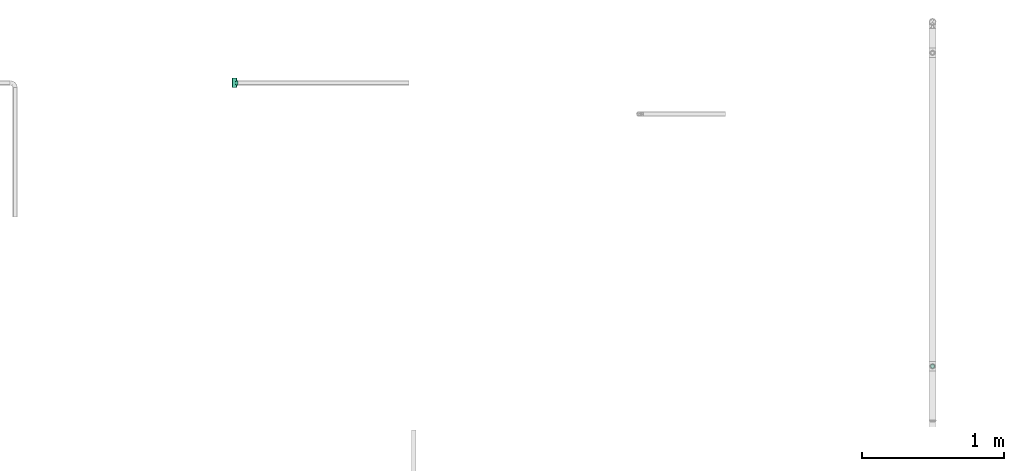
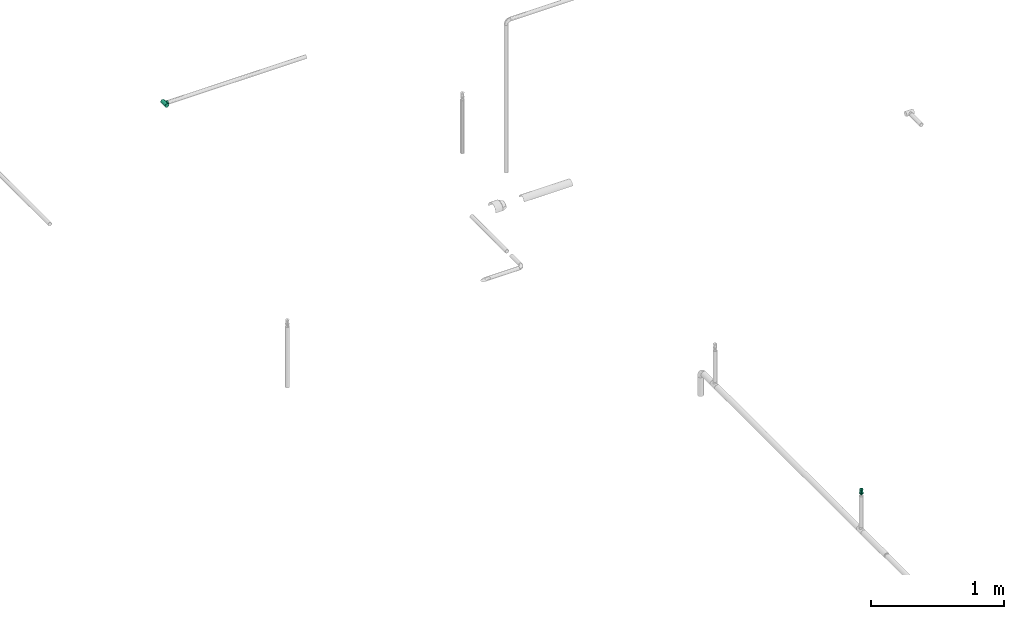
# One storey, part 41 of 63: 1 flow fitting, 1 flow terminal.
"""IFC2X3 building model written with IfcOpenShell, lengths in millimetres."""

from ifc_helpers import new_model, entity, si_unit, converted_unit, derived_unit, direction, frame, origin_with_axes, place, context, subcontext, project, spatial, open_shell, surface_model, source, transform, mapped, type_object, element, save


model = new_model("IFC2X3")

# Units and contexts
model_context = context("Model", 3, precision=0.01, world=frame((0.0, 4.29681676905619e-09, 0.0)), true_north=direction((4.01073788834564e-13, 1.0)))
plan_context = context("Plan", 3, precision=0.01, world=frame((0.0, 4.29681676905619e-09, 0.0)), true_north=direction((4.01073788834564e-13, 1.0)))
body_context = subcontext(model_context, "Body", "Model", "MODEL_VIEW")
ifc_project = project(units=[converted_unit("PLANEANGLEUNIT", "DEGREE", entity("IfcPositiveLengthMeasure", 0.0174532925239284), si_unit("PLANEANGLEUNIT", "RADIAN"), dimensions=[0, 0, 0, 0, 0, 0, 0]), si_unit("AREAUNIT", "SQUARE_METRE"), si_unit("LENGTHUNIT", "METRE", prefix="MILLI"), si_unit("MASSUNIT", "GRAM", prefix="KILO"), si_unit("POWERUNIT", "WATT"), si_unit("PRESSUREUNIT", "PASCAL", prefix="KILO"), si_unit("FORCEUNIT", "NEWTON", prefix="KILO"), si_unit("ELECTRICVOLTAGEUNIT", "VOLT"), si_unit("ELECTRICCURRENTUNIT", "AMPERE"), si_unit("THERMODYNAMICTEMPERATUREUNIT", "DEGREE_CELSIUS"), si_unit("TIMEUNIT", "SECOND"), si_unit("VOLUMEUNIT", "CUBIC_METRE"), derived_unit("LINEARVELOCITYUNIT", [(si_unit("LENGTHUNIT", "METRE"), 1), (si_unit("TIMEUNIT", "SECOND"), -1)]), derived_unit("VOLUMETRICFLOWRATEUNIT", [(si_unit("VOLUMEUNIT", "CUBIC_METRE"), 1), (si_unit("TIMEUNIT", "SECOND"), -1)]), derived_unit("THERMALTRANSMITTANCEUNIT", [(si_unit("POWERUNIT", "WATT"), 1), (si_unit("THERMODYNAMICTEMPERATUREUNIT", "KELVIN"), -1), (si_unit("AREAUNIT", "SQUARE_METRE"), -1)]), derived_unit("SOUNDPRESSUREUNIT", [(si_unit("PRESSUREUNIT", "PASCAL"), 1)])], contexts=[model_context, plan_context])

# Site, building, storey
site_placement = place(None, frame((0.0, -4.29681676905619e-09, 0.0), z_axis=(0.0, 0.0, 1.0), x_axis=(1.0, 0.0, 0.0)))
site = spatial("IfcSite", under=ifc_project, at=site_placement, CompositionType="ELEMENT")
building_placement = place(site_placement, frame((0.0, 4.29681676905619e-09, 0.0), z_axis=(0.0, 0.0, 1.0), x_axis=(1.0, 0.0, 0.0)))
building = spatial("IfcBuilding", under=site, at=building_placement, Name="mc-building", CompositionType="ELEMENT")
storey_placement = place(building_placement, frame((0.0, 0.0, 207370.0), z_axis=(0.0, 0.0, 1.0), x_axis=(1.0, 0.0, 0.0)))
storey = spatial("IfcBuildingStorey", under=building, at=storey_placement, Name="Nivå E", CompositionType="ELEMENT", Elevation=207370.0)

# Flow fitting
pipe_fitting_type = type_object("IfcPipeFittingType", Name="magi_pipe_fe_tee_centric_90_NOR", PredefinedType="JUNCTION")
shared_shape_1 = source(origin_with_axes(), body_context, "Body", "SurfaceModel", [
    surface_model("IfcShellBasedSurfaceModel", [(-33.8, 4.37404, -16.32415), (-33.8, 0.0, -16.9), (-33.8, 16.32415, -4.37404), (-33.8, 8.45, -14.63583), (-33.8, 11.9501, -11.9501), (-33.8, 14.63583, -8.45), (-33.8, -16.9, 0.0), (-33.8, -11.9501, -11.9501), (-33.8, -14.63583, -8.45), (-33.8, -8.45, -14.63583), (-33.8, -4.37404, -16.32415), (-33.8, -16.32415, -4.37404), (-33.8, 14.63583, 8.45), (-33.8, 16.32415, 4.37404), (-33.8, -8.45, 14.63583), (-33.8, 8.45, 14.63583), (-33.8, 11.9501, 11.9501), (-33.8, 4.37404, 16.32415), (-33.8, 0.0, 16.9), (-33.8, -11.9501, 11.9501), (-33.8, -14.63583, 8.45), (-33.8, -16.32415, 4.37404), (-33.8, -4.37404, 16.32415), (-33.8, 16.9, 0.0), (33.8, 4.37404, -16.32415), (33.8, -16.9, 0.0), (33.8, 0.0, -16.9), (33.8, 14.63583, -8.45), (33.8, 8.45, -14.63583), (33.8, 16.32415, -4.37404), (33.8, 11.9501, -11.9501), (33.8, -16.32415, 4.37404), (33.8, -8.45, -14.63583), (33.8, -4.37404, -16.32415), (33.8, -11.9501, -11.9501), (33.8, -14.63583, -8.45), (33.8, -16.32415, -4.37404), (33.8, 16.32415, 4.37404), (33.8, 8.45, 14.63583), (33.8, 14.63583, 8.45), (33.8, 11.9501, 11.9501), (33.8, -8.45, 14.63583), (33.8, 4.37404, 16.32415), (33.8, -14.63583, 8.45), (33.8, -11.9501, 11.9501), (33.8, 0.0, 16.9), (33.8, -4.37404, 16.32415), (33.8, 16.9, 0.0), (16.28698, -16.28698, 4.51047), (16.9, -16.9, 0.0), (14.62704, -14.62704, 8.4652), (9.47213, -9.47213, 13.99602), (12.26343, -12.26343, 11.62834), (-16.9, -16.9, 0.0), (-16.28698, -16.28698, 4.51047), (-14.62704, -14.62704, 8.4652), (-12.26343, -12.26343, 11.62834), (-9.47213, -9.47213, 13.99602), (-6.42894, -6.42894, 15.62942), (6.42894, -6.42894, 15.62942), (3.24522, -3.24522, 16.58549), (0.0, 0.0, 16.9), (-3.24522, -3.24522, 16.58549), (3.24522, -3.24522, -16.58549), (0.0, 0.0, -16.9), (-3.24522, -3.24522, -16.58549), (-6.42894, -6.42894, -15.62942), (6.42894, -6.42894, -15.62942), (9.47213, -9.47213, -13.99602), (12.26343, -12.26343, -11.62834), (14.62704, -14.62704, -8.4652), (16.28698, -16.28698, -4.51047), (-9.47213, -9.47213, -13.99602), (-12.26343, -12.26343, -11.62834), (-16.28698, -16.28698, -4.51047), (-14.62704, -14.62704, -8.4652), (4.37404, -25.35, -16.32415), (-16.9, -25.35, 0.0), (0.0, -25.35, -16.9), (14.63583, -25.35, -8.45), (8.45, -25.35, -14.63583), (16.32415, -25.35, -4.37404), (11.9501, -25.35, -11.9501), (-11.9501, -25.35, -11.9501), (-8.45, -25.35, -14.63583), (-4.37404, -25.35, -16.32415), (-14.63583, -25.35, -8.45), (-16.32415, -25.35, -4.37404), (16.9, -25.35, 0.0), (8.45, -25.35, 14.63583), (16.32415, -25.35, 4.37404), (14.63583, -25.35, 8.45), (-8.45, -25.35, 14.63583), (11.9501, -25.35, 11.9501), (4.37404, -25.35, 16.32415), (-16.32415, -25.35, 4.37404), (-11.9501, -25.35, 11.9501), (-14.63583, -25.35, 8.45), (0.0, -25.35, 16.9), (-4.37404, -25.35, 16.32415)], [open_shell([[[0, 1, 2]], [[3, 0, 4]], [[0, 2, 5]], [[4, 0, 5]], [[6, 2, 1]], [[7, 8, 9]], [[1, 10, 9]], [[11, 6, 8]], [[1, 9, 8]], [[1, 8, 6]], [[6, 12, 2]], [[12, 13, 2]], [[14, 12, 6]], [[12, 14, 15]], [[16, 12, 15]], [[17, 15, 18]], [[19, 14, 20]], [[21, 20, 14]], [[22, 18, 14]], [[14, 6, 21]], [[14, 18, 15]], [[23, 2, 13]], [[24, 25, 26]], [[27, 24, 28]], [[27, 29, 24]], [[27, 28, 30]], [[31, 25, 24]], [[26, 32, 33]], [[26, 34, 32]], [[35, 25, 36]], [[35, 34, 26]], [[25, 35, 26]], [[24, 29, 31]], [[29, 37, 38]], [[38, 37, 39]], [[38, 31, 29]], [[38, 39, 40]], [[41, 38, 42]], [[43, 41, 44]], [[41, 43, 31]], [[41, 45, 46]], [[41, 31, 38]], [[42, 45, 41]], [[29, 47, 37]], [[31, 43, 48]], [[25, 31, 49]], [[49, 31, 48]], [[43, 50, 48]], [[44, 41, 51]], [[50, 43, 52]], [[51, 52, 44]], [[52, 43, 44]], [[53, 54, 21]], [[53, 21, 6]], [[21, 54, 20]], [[54, 55, 20]], [[56, 57, 19]], [[19, 20, 56]], [[19, 57, 14]], [[56, 20, 55]], [[14, 57, 58]], [[51, 41, 59]], [[60, 45, 61]], [[59, 46, 60]], [[46, 59, 41]], [[60, 46, 45]], [[61, 45, 42]], [[39, 37, 13]], [[16, 38, 40]], [[12, 40, 39]], [[42, 38, 15]], [[23, 37, 47]], [[62, 61, 18]], [[62, 22, 58]], [[22, 62, 18]], [[58, 22, 14]], [[61, 17, 18]], [[42, 17, 61]], [[15, 17, 42]], [[15, 38, 16]], [[12, 16, 40]], [[13, 12, 39]], [[37, 23, 13]], [[5, 27, 30]], [[23, 47, 29]], [[30, 28, 3]], [[27, 2, 29]], [[26, 33, 63]], [[26, 64, 24]], [[64, 26, 63]], [[28, 24, 0]], [[64, 0, 24]], [[4, 30, 3]], [[2, 27, 5]], [[5, 30, 4]], [[2, 23, 29]], [[65, 66, 10]], [[1, 0, 64]], [[1, 65, 10]], [[66, 9, 10]], [[0, 3, 28]], [[1, 64, 65]], [[63, 33, 67]], [[32, 34, 68]], [[69, 68, 34]], [[35, 70, 69]], [[69, 34, 35]], [[32, 68, 67]], [[36, 25, 49]], [[36, 71, 35]], [[71, 36, 49]], [[35, 71, 70]], [[72, 9, 66]], [[72, 7, 9]], [[7, 72, 73]], [[7, 73, 8]], [[74, 53, 11]], [[75, 74, 8]], [[74, 11, 8]], [[11, 53, 6]], [[75, 8, 73]], [[32, 67, 33]], [[76, 77, 78]], [[79, 76, 80]], [[79, 81, 76]], [[79, 80, 82]], [[77, 76, 81]], [[78, 83, 84]], [[84, 85, 78]], [[86, 77, 87]], [[83, 78, 86]], [[77, 86, 78]], [[81, 88, 77]], [[89, 88, 90]], [[89, 90, 91]], [[92, 77, 89]], [[89, 91, 93]], [[92, 89, 94]], [[95, 96, 97]], [[96, 95, 92]], [[92, 98, 99]], [[95, 77, 92]], [[94, 98, 92]], [[89, 77, 88]], [[77, 95, 53]], [[54, 53, 95]], [[97, 96, 56]], [[96, 92, 57]], [[95, 97, 54]], [[58, 92, 99]], [[55, 54, 97]], [[56, 55, 97]], [[58, 57, 92]], [[98, 61, 62]], [[58, 99, 62]], [[56, 96, 57]], [[62, 99, 98]], [[94, 60, 98]], [[89, 59, 94]], [[91, 90, 48]], [[52, 93, 91]], [[93, 51, 89]], [[49, 90, 88]], [[59, 60, 94]], [[51, 59, 89]], [[49, 48, 90]], [[50, 52, 91]], [[48, 50, 91]], [[51, 93, 52]], [[98, 60, 61]], [[88, 81, 49]], [[71, 49, 81]], [[79, 82, 69]], [[82, 80, 68]], [[81, 79, 71]], [[67, 80, 76]], [[70, 71, 79]], [[69, 70, 79]], [[67, 68, 80]], [[78, 64, 63]], [[67, 76, 63]], [[69, 82, 68]], [[63, 76, 78]], [[85, 65, 78]], [[84, 66, 85]], [[86, 87, 74]], [[86, 73, 83]], [[72, 84, 83]], [[53, 87, 77]], [[66, 65, 85]], [[72, 66, 84]], [[53, 74, 87]], [[75, 73, 86]], [[74, 75, 86]], [[72, 83, 73]], [[78, 65, 64]]])]),
])
flow_fitting_placement = place(storey_placement, frame((723741.0277, 439200.7, 7130.0), z_axis=(0.0, 0.0, -1.0), x_axis=(0.0, -1.0, 0.0)))
element("IfcFlowFitting", 1, at=flow_fitting_placement, inside=storey, type_object=pipe_fitting_type, Name="magi_pipe_fe_tee_centric_90_NOR", context=body_context, shape_type="MappedRepresentation", body=[
    mapped(shared_shape_1, transform((0.0, 0.0, 0.0), scale=1.0)),
])

# Flow terminal
fire_suppression_terminal_type = type_object("IfcFireSuppressionTerminalType", Name="68DGR-STD-STÅENDE", PredefinedType="NOTDEFINED")
shared_shape_2 = source(origin_with_axes(), body_context, "Body", "SurfaceModel", [
    surface_model("IfcShellBasedSurfaceModel", [(3.36465, -12.55704, 51.0), (6.5, -11.25833, 51.0), (9.19239, -9.19239, 51.0), (12.55704, -3.36465, 51.0), (-11.25833, -6.5, 51.0), (11.25833, -6.5, 51.0), (-13.0, 0.0, 51.0), (0.0, -13.0, 51.0), (-6.5, -11.25833, 51.0), (-3.36465, -12.55704, 51.0), (-9.19239, -9.19239, 51.0), (-12.55704, -3.36465, 51.0), (13.0, 0.0, 51.0), (12.55704, 3.36465, 51.0), (11.25833, 6.5, 51.0), (9.19239, 9.19239, 51.0), (6.5, 11.25833, 51.0), (3.36465, 12.55704, 51.0), (0.0, 13.0, 51.0), (-3.36465, 12.55704, 51.0), (-12.55704, 3.36465, 51.0), (-9.19239, 9.19239, 51.0), (-11.25833, 6.5, 51.0), (-6.5, 11.25833, 51.0), (0.0, 13.0, 21.14766), (3.36465, 12.55704, 21.14766), (6.5, 11.25833, 21.14766), (-3.36465, 12.55704, 21.14766), (9.19239, 9.19239, 21.14766), (11.25833, 6.5, 21.14766), (12.55704, 3.36465, 21.14766), (-12.55704, 3.36465, 21.14766), (-11.25833, -6.5, 21.14766), (-9.19239, 9.19239, 21.14766), (-6.5, 11.25833, 21.14766), (-11.25833, 6.5, 21.14766), (-13.0, 0.0, 21.14766), (12.55704, -3.36465, 21.14766), (9.19239, -9.19239, 21.14766), (11.25833, -6.5, 21.14766), (6.5, -11.25833, 21.14766), (3.36465, -12.55704, 21.14766), (-6.5, -11.25833, 21.14766), (-9.19239, -9.19239, 21.14766), (-12.55704, -3.36465, 21.14766), (0.0, -13.0, 21.14766), (-3.36465, -12.55704, 21.14766), (13.0, 0.0, 21.14766), (7.24444, -1.94114, 0.1), (1.94114, -7.24444, 0.1), (3.75, -6.49519, 0.1), (5.3033, -5.3033, 0.1), (-5.3033, -5.3033, 0.1), (6.49519, -3.75, 0.1), (5.3033, 5.3033, 0.1), (0.0, -7.5, 0.1), (-3.75, -6.49519, 0.1), (-1.94114, -7.24444, 0.1), (-7.24444, -1.94114, 0.1), (-6.49519, -3.75, 0.1), (-7.24444, 1.94114, 0.1), (7.5, 0.0, 0.1), (6.49519, 3.75, 0.1), (-6.49519, 3.75, 0.1), (1.94114, 7.24444, 0.1), (0.0, 7.5, 0.1), (3.75, 6.49519, 0.1), (-7.5, 0.0, 0.1), (-5.3033, 5.3033, 0.1), (-1.94114, 7.24444, 0.1), (-3.75, 6.49519, 0.1), (7.24444, 1.94114, 0.1), (1.94114, 7.24444, -0.1), (-6.49519, 3.75, -0.1), (0.0, 7.5, -0.1), (5.3033, 5.3033, -0.1), (3.75, 6.49519, -0.1), (6.49519, 3.75, -0.1), (7.24444, 1.94114, -0.1), (-1.94114, 7.24444, -0.1), (-5.3033, 5.3033, -0.1), (-3.75, 6.49519, -0.1), (-7.24444, 1.94114, -0.1), (-7.24444, -1.94114, -0.1), (-7.5, 0.0, -0.1), (7.5, 0.0, -0.1), (7.24444, -1.94114, -0.1), (-5.3033, -5.3033, -0.1), (1.94114, -7.24444, -0.1), (6.49519, -3.75, -0.1), (5.3033, -5.3033, -0.1), (3.75, -6.49519, -0.1), (-6.49519, -3.75, -0.1), (-3.75, -6.49519, -0.1), (0.0, -7.5, -0.1), (-1.94114, -7.24444, -0.1), (0.0, -2.5, 51.0), (-2.5, 0.0, 51.0), (0.0, 2.5, 51.0), (2.5, 0.0, 51.0), (0.0, -16.0, 53.0), (11.31371, -11.31371, 53.0), (-11.31371, -11.31371, 53.0), (-16.0, 0.0, 53.0), (16.0, 0.0, 53.0), (11.31371, 11.31371, 53.0), (0.0, 16.0, 53.0), (-11.31371, 11.31371, 53.0), (1.25, -2.16506, 57.0), (0.0, -2.5, 57.0), (0.64705, -2.41481, 57.0), (2.41481, -0.64705, 57.0), (1.76777, -1.76777, 57.0), (-2.41481, -0.64705, 57.0), (-2.5, 0.0, 57.0), (2.16506, -1.25, 57.0), (-1.25, -2.16506, 57.0), (-0.64705, -2.41481, 57.0), (-1.76777, -1.76777, 57.0), (-2.16506, -1.25, 57.0), (2.5, 0.0, 57.0), (2.41481, 0.64705, 57.0), (2.16506, 1.25, 57.0), (1.76777, 1.76777, 57.0), (0.64705, 2.41481, 57.0), (1.25, 2.16506, 57.0), (-1.76777, 1.76777, 57.0), (0.0, 2.5, 57.0), (-2.16506, 1.25, 57.0), (-2.41481, 0.64705, 57.0), (-0.64705, 2.41481, 57.0), (-1.25, 2.16506, 57.0), (1.25, 2.16506, 51.0), (1.76777, 1.76777, 51.0), (1.15, 1.99186, 51.0), (0.59528, 2.22163, 51.0), (0.64705, 2.41481, 51.0), (0.0, 2.3, 51.0), (1.62635, 1.62635, 51.0), (2.41481, 0.64705, 51.0), (2.3, 0.0, 51.0), (2.22163, 0.59528, 51.0), (2.16506, 1.25, 51.0), (1.99186, 1.15, 51.0), (-0.59528, 2.22163, 51.0), (-0.64705, 2.41481, 51.0), (-1.15, 1.99186, 51.0), (-1.76777, 1.76777, 51.0), (-1.25, 2.16506, 51.0), (-1.62635, 1.62635, 51.0), (-1.99186, 1.15, 51.0), (-2.16506, 1.25, 51.0), (-2.22163, 0.59528, 51.0), (-2.41481, 0.64705, 51.0), (-2.3, 0.0, 51.0), (2.41481, -0.64705, 51.0), (2.22163, -0.59528, 51.0), (1.99186, -1.15, 51.0), (2.16506, -1.25, 51.0), (1.62635, -1.62635, 51.0), (1.76777, -1.76777, 51.0), (1.25, -2.16506, 51.0), (1.15, -1.99186, 51.0), (0.59528, -2.22163, 51.0), (0.64705, -2.41481, 51.0), (0.0, -2.3, 51.0), (-2.16506, -1.25, 51.0), (-1.99186, -1.15, 51.0), (-1.76777, -1.76777, 51.0), (-1.62635, -1.62635, 51.0), (-2.41481, -0.64705, 51.0), (-2.22163, -0.59528, 51.0), (-0.59528, -2.22163, 51.0), (-0.64705, -2.41481, 51.0), (-1.15, -1.99186, 51.0), (-1.25, -2.16506, 51.0), (1.62635, -1.62635, 56.8), (1.15, -1.99186, 56.8), (0.59528, -2.22163, 56.8), (0.0, -2.3, 56.8), (2.22163, 0.59528, 56.8), (1.99186, -1.15, 56.8), (2.22163, -0.59528, 56.8), (-0.59528, -2.22163, 56.8), (-1.15, -1.99186, 56.8), (-1.62635, -1.62635, 56.8), (-1.99186, -1.15, 56.8), (-2.22163, -0.59528, 56.8), (-1.99186, 1.15, 56.8), (2.3, 0.0, 56.8), (1.62635, 1.62635, 56.8), (1.99186, 1.15, 56.8), (1.15, 1.99186, 56.8), (0.0, 2.3, 56.8), (0.59528, 2.22163, 56.8), (-2.22163, 0.59528, 56.8), (-2.3, 0.0, 56.8), (-1.15, 1.99186, 56.8), (-0.59528, 2.22163, 56.8), (-1.62635, 1.62635, 56.8), (4.1411, -15.45481, 19.0), (8.0, -13.85641, 19.0), (11.31371, -11.31371, 19.0), (-8.0, -13.85641, 19.0), (15.45481, -4.1411, 19.0), (16.0, 0.0, 19.0), (13.85641, -8.0, 19.0), (0.0, -16.0, 19.0), (-4.1411, -15.45481, 19.0), (-13.85641, -8.0, 19.0), (-11.31371, -11.31371, 19.0), (-15.45481, -4.1411, 19.0), (15.45481, 4.1411, 19.0), (13.85641, 8.0, 19.0), (11.31371, 11.31371, 19.0), (-4.1411, 15.45481, 19.0), (8.0, 13.85641, 19.0), (4.1411, 15.45481, 19.0), (0.0, 16.0, 19.0), (-13.85641, 8.0, 19.0), (-15.45481, 4.1411, 19.0), (-16.0, 0.0, 19.0), (-11.31371, 11.31371, 19.0), (-8.0, 13.85641, 19.0), (0.0, 16.0, 13.0), (4.1411, 15.45481, 13.0), (8.0, 13.85641, 13.0), (-4.1411, 15.45481, 13.0), (11.31371, 11.31371, 13.0), (13.85641, 8.0, 13.0), (15.45481, 4.1411, 13.0), (-15.45481, -4.1411, 13.0), (-11.31371, 11.31371, 13.0), (-8.0, 13.85641, 13.0), (-13.85641, 8.0, 13.0), (-15.45481, 4.1411, 13.0), (-16.0, 0.0, 13.0), (4.1411, -15.45481, 13.0), (16.0, 0.0, 13.0), (15.45481, -4.1411, 13.0), (13.85641, -8.0, 13.0), (11.31371, -11.31371, 13.0), (8.0, -13.85641, 13.0), (-8.0, -13.85641, 13.0), (-13.85641, -8.0, 13.0), (-11.31371, -11.31371, 13.0), (0.0, -16.0, 13.0), (-4.1411, -15.45481, 13.0), (7.24444, -1.94114, 13.0), (1.94114, -7.24444, 13.0), (3.75, -6.49519, 13.0), (5.3033, -5.3033, 13.0), (-5.3033, -5.3033, 13.0), (6.49519, -3.75, 13.0), (5.3033, 5.3033, 13.0), (0.0, -7.5, 13.0), (-3.75, -6.49519, 13.0), (-1.94114, -7.24444, 13.0), (-7.24444, -1.94114, 13.0), (-6.49519, -3.75, 13.0), (-7.24444, 1.94114, 13.0), (7.5, 0.0, 13.0), (6.49519, 3.75, 13.0), (-6.49519, 3.75, 13.0), (1.94114, 7.24444, 13.0), (0.0, 7.5, 13.0), (3.75, 6.49519, 13.0), (-7.5, 0.0, 13.0), (-5.3033, 5.3033, 13.0), (-1.94114, 7.24444, 13.0), (-3.75, 6.49519, 13.0), (7.24444, 1.94114, 13.0), (3.75, 6.49519, 0.0), (5.3033, 5.3033, 0.0), (3.65, 6.32199, 0.0), (1.88938, 7.05126, 0.0), (0.0, 7.3, 0.0), (1.94114, 7.24444, 0.0), (0.0, 7.5, 0.0), (5.16188, 5.16188, 0.0), (7.24444, 1.94114, 0.0), (7.3, 0.0, 0.0), (7.05126, 1.88938, 0.0), (7.5, 0.0, 0.0), (6.49519, 3.75, 0.0), (6.32199, 3.65, 0.0), (-1.88938, 7.05126, 0.0), (-1.94114, 7.24444, 0.0), (-3.65, 6.32199, 0.0), (-5.3033, 5.3033, 0.0), (-3.75, 6.49519, 0.0), (-5.16188, 5.16188, 0.0), (-6.32199, 3.65, 0.0), (-6.49519, 3.75, 0.0), (-7.05126, 1.88938, 0.0), (-7.24444, 1.94114, 0.0), (-7.3, 0.0, 0.0), (-7.5, 0.0, 0.0), (7.24444, -1.94114, 0.0), (7.05126, -1.88938, 0.0), (6.32199, -3.65, 0.0), (6.49519, -3.75, 0.0), (5.16188, -5.16188, 0.0), (5.3033, -5.3033, 0.0), (3.75, -6.49519, 0.0), (3.65, -6.32199, 0.0), (1.88938, -7.05126, 0.0), (1.94114, -7.24444, 0.0), (0.0, -7.3, 0.0), (0.0, -7.5, 0.0), (-6.49519, -3.75, 0.0), (-6.32199, -3.65, 0.0), (-5.3033, -5.3033, 0.0), (-5.16188, -5.16188, 0.0), (-7.24444, -1.94114, 0.0), (-7.05126, -1.88938, 0.0), (-1.88938, -7.05126, 0.0), (-1.94114, -7.24444, 0.0), (-3.65, -6.32199, 0.0), (-3.75, -6.49519, 0.0), (1.88938, -7.05126, 12.8), (0.0, -7.3, 12.8), (3.65, -6.32199, 12.8), (5.16188, -5.16188, 12.8), (6.32199, -3.65, 12.8), (7.05126, 1.88938, 12.8), (7.05126, -1.88938, 12.8), (-5.16188, -5.16188, 12.8), (-1.88938, -7.05126, 12.8), (-3.65, -6.32199, 12.8), (-6.32199, -3.65, 12.8), (-7.05126, -1.88938, 12.8), (0.0, 7.3, 12.8), (7.3, 0.0, 12.8), (6.32199, 3.65, 12.8), (5.16188, 5.16188, 12.8), (3.65, 6.32199, 12.8), (1.88938, 7.05126, 12.8), (-6.32199, 3.65, 12.8), (-7.05126, 1.88938, 12.8), (-7.3, 0.0, 12.8), (-3.65, 6.32199, 12.8), (-1.88938, 7.05126, 12.8), (-5.16188, 5.16188, 12.8)], [open_shell([[[0, 1, 2]], [[0, 2, 3]], [[0, 3, 4]], [[3, 2, 5]], [[6, 4, 3]], [[7, 8, 9]], [[7, 0, 8]], [[8, 4, 10]], [[0, 4, 8]], [[4, 6, 11]], [[6, 3, 12]], [[13, 14, 15]], [[6, 13, 15]], [[16, 17, 18]], [[15, 16, 19]], [[18, 19, 16]], [[20, 21, 22]], [[20, 6, 15]], [[21, 19, 23]], [[19, 21, 20]], [[15, 19, 20]], [[13, 6, 12]], [[24, 25, 26]], [[27, 24, 26]], [[28, 29, 30]], [[26, 28, 31]], [[28, 32, 31]], [[27, 33, 34]], [[33, 27, 31]], [[33, 31, 35]], [[27, 26, 31]], [[31, 32, 36]], [[32, 28, 30]], [[32, 30, 37]], [[38, 37, 39]], [[38, 40, 41]], [[38, 41, 37]], [[32, 37, 41]], [[32, 42, 43]], [[44, 36, 32]], [[42, 45, 46]], [[42, 32, 41]], [[45, 42, 41]], [[30, 47, 37]], [[4, 32, 43]], [[8, 42, 46]], [[43, 42, 10]], [[9, 46, 45]], [[36, 11, 6]], [[11, 36, 44]], [[11, 44, 4]], [[44, 32, 4]], [[43, 10, 4]], [[8, 10, 42]], [[46, 9, 8]], [[45, 7, 9]], [[0, 41, 40]], [[38, 1, 40]], [[5, 39, 37]], [[38, 39, 2]], [[3, 37, 47]], [[41, 0, 7]], [[40, 1, 0]], [[38, 2, 1]], [[39, 5, 2]], [[3, 5, 37]], [[47, 12, 3]], [[41, 7, 45]], [[30, 13, 47]], [[29, 14, 30]], [[25, 24, 17]], [[15, 29, 28]], [[30, 14, 13]], [[13, 12, 47]], [[16, 26, 17]], [[16, 15, 28]], [[26, 25, 17]], [[15, 14, 29]], [[28, 26, 16]], [[24, 18, 17]], [[19, 27, 34]], [[33, 23, 34]], [[22, 35, 31]], [[33, 35, 21]], [[20, 31, 36]], [[27, 19, 18]], [[34, 23, 19]], [[33, 21, 23]], [[35, 22, 21]], [[20, 22, 31]], [[36, 6, 20]], [[27, 18, 24]], [[48, 49, 50]], [[48, 50, 51]], [[49, 48, 52]], [[48, 51, 53]], [[54, 52, 48]], [[55, 56, 57]], [[56, 55, 52]], [[52, 58, 59]], [[52, 55, 49]], [[52, 60, 58]], [[54, 48, 61]], [[62, 54, 61]], [[54, 63, 52]], [[64, 65, 54]], [[64, 54, 66]], [[63, 54, 65]], [[63, 60, 52]], [[67, 58, 60]], [[68, 69, 70]], [[69, 68, 63]], [[69, 63, 65]], [[71, 62, 61]], [[72, 73, 74]], [[75, 72, 76]], [[75, 77, 78]], [[72, 75, 73]], [[78, 73, 75]], [[79, 80, 81]], [[80, 79, 73]], [[74, 73, 79]], [[78, 82, 73]], [[82, 83, 84]], [[82, 78, 85]], [[86, 87, 85]], [[88, 86, 89]], [[90, 91, 88]], [[90, 88, 89]], [[87, 86, 88]], [[83, 87, 92]], [[83, 85, 87]], [[93, 94, 95]], [[94, 93, 87]], [[88, 94, 87]], [[85, 83, 82]], [[83, 58, 84]], [[92, 59, 83]], [[56, 87, 93]], [[92, 87, 52]], [[57, 93, 95]], [[83, 59, 58]], [[58, 67, 84]], [[57, 56, 93]], [[52, 87, 56]], [[52, 59, 92]], [[55, 57, 95]], [[95, 94, 55]], [[88, 49, 94]], [[91, 50, 88]], [[53, 90, 89]], [[91, 90, 51]], [[48, 89, 86]], [[91, 51, 50]], [[50, 49, 88]], [[61, 48, 86]], [[53, 89, 48]], [[53, 51, 90]], [[85, 61, 86]], [[94, 49, 55]], [[78, 71, 85]], [[77, 62, 78]], [[66, 75, 76]], [[77, 75, 54]], [[64, 76, 72]], [[78, 62, 71]], [[71, 61, 85]], [[64, 66, 76]], [[54, 75, 66]], [[54, 62, 77]], [[65, 64, 72]], [[72, 74, 65]], [[79, 69, 74]], [[81, 70, 79]], [[63, 80, 73]], [[81, 80, 68]], [[60, 73, 82]], [[81, 68, 70]], [[70, 69, 79]], [[67, 60, 82]], [[63, 73, 60]], [[63, 68, 80]], [[84, 67, 82]], [[74, 69, 65]], [[96, 97, 98]], [[98, 99, 96]], [[100, 101, 102]], [[103, 102, 101]], [[101, 104, 103]], [[104, 105, 106]], [[107, 103, 106]], [[106, 103, 104]], [[99, 98, 105]], [[105, 104, 99]], [[98, 106, 105]], [[98, 107, 106]], [[107, 98, 97]], [[103, 107, 97]], [[97, 96, 102]], [[102, 103, 97]], [[96, 100, 102]], [[96, 101, 100]], [[101, 96, 99]], [[104, 101, 99]], [[108, 109, 110]], [[111, 108, 112]], [[113, 108, 114]], [[111, 112, 115]], [[108, 111, 114]], [[109, 116, 117]], [[116, 109, 118]], [[118, 113, 119]], [[118, 109, 108]], [[108, 113, 118]], [[111, 120, 114]], [[121, 122, 123]], [[114, 121, 123]], [[114, 123, 124]], [[124, 123, 125]], [[126, 124, 127]], [[124, 128, 129]], [[129, 114, 124]], [[126, 130, 131]], [[128, 124, 126]], [[130, 126, 127]], [[121, 114, 120]], [[132, 133, 134]], [[132, 134, 135]], [[136, 135, 137]], [[135, 136, 132]], [[136, 137, 98]], [[134, 133, 138]], [[139, 140, 141]], [[140, 139, 99]], [[139, 141, 142]], [[138, 142, 143]], [[142, 138, 133]], [[143, 142, 141]], [[98, 144, 145]], [[98, 137, 144]], [[145, 144, 146]], [[147, 148, 149]], [[146, 148, 145]], [[149, 148, 146]], [[150, 151, 147]], [[151, 150, 152]], [[150, 147, 149]], [[153, 152, 154]], [[152, 153, 151]], [[153, 154, 97]], [[99, 155, 156]], [[156, 155, 157]], [[157, 158, 159]], [[158, 157, 155]], [[159, 158, 160]], [[160, 161, 162]], [[162, 161, 163]], [[163, 164, 165]], [[164, 163, 161]], [[165, 164, 96]], [[162, 159, 160]], [[166, 167, 168]], [[168, 167, 169]], [[167, 166, 170]], [[97, 171, 170]], [[170, 171, 167]], [[97, 154, 171]], [[172, 96, 173]], [[172, 173, 174]], [[169, 175, 168]], [[175, 169, 174]], [[175, 174, 173]], [[165, 96, 172]], [[156, 140, 99]], [[170, 113, 97]], [[166, 119, 170]], [[116, 168, 175]], [[166, 168, 118]], [[117, 175, 173]], [[170, 119, 113]], [[113, 114, 97]], [[117, 116, 175]], [[118, 168, 116]], [[118, 119, 166]], [[109, 117, 173]], [[173, 96, 109]], [[164, 110, 96]], [[161, 108, 164]], [[115, 160, 158]], [[161, 160, 112]], [[111, 158, 155]], [[161, 112, 108]], [[108, 110, 164]], [[120, 111, 155]], [[115, 158, 111]], [[115, 112, 160]], [[99, 120, 155]], [[96, 110, 109]], [[139, 121, 99]], [[142, 122, 139]], [[125, 133, 132]], [[142, 133, 123]], [[124, 132, 136]], [[139, 122, 121]], [[121, 120, 99]], [[124, 125, 132]], [[123, 133, 125]], [[123, 122, 142]], [[127, 124, 136]], [[136, 98, 127]], [[145, 130, 98]], [[148, 131, 145]], [[128, 147, 151]], [[148, 147, 126]], [[129, 151, 153]], [[148, 126, 131]], [[131, 130, 145]], [[114, 129, 153]], [[128, 151, 129]], [[128, 126, 147]], [[97, 114, 153]], [[98, 130, 127]], [[176, 177, 178]], [[176, 178, 179]], [[180, 176, 179]], [[181, 176, 182]], [[180, 182, 176]], [[183, 184, 179]], [[185, 179, 184]], [[186, 187, 185]], [[185, 187, 188]], [[179, 185, 188]], [[189, 182, 180]], [[190, 191, 180]], [[192, 190, 180]], [[193, 194, 192]], [[180, 193, 192]], [[188, 193, 180]], [[195, 188, 196]], [[196, 188, 187]], [[197, 198, 199]], [[188, 199, 198]], [[188, 198, 193]], [[180, 179, 188]], [[154, 187, 171]], [[171, 186, 167]], [[174, 169, 184]], [[185, 169, 167]], [[172, 174, 183]], [[187, 186, 171]], [[154, 196, 187]], [[174, 184, 183]], [[184, 169, 185]], [[167, 186, 185]], [[172, 183, 179]], [[179, 165, 172]], [[165, 178, 163]], [[163, 177, 162]], [[157, 159, 181]], [[176, 159, 162]], [[156, 157, 182]], [[177, 176, 162]], [[163, 178, 177]], [[156, 182, 189]], [[182, 157, 181]], [[159, 176, 181]], [[156, 189, 140]], [[179, 178, 165]], [[140, 180, 141]], [[141, 191, 143]], [[134, 138, 192]], [[190, 138, 143]], [[135, 134, 194]], [[180, 191, 141]], [[140, 189, 180]], [[134, 192, 194]], [[192, 138, 190]], [[143, 191, 190]], [[135, 194, 193]], [[193, 137, 135]], [[137, 198, 144]], [[144, 197, 146]], [[150, 149, 188]], [[199, 149, 146]], [[152, 150, 195]], [[197, 199, 146]], [[144, 198, 197]], [[152, 195, 196]], [[195, 150, 188]], [[149, 199, 188]], [[152, 196, 154]], [[193, 198, 137]], [[200, 201, 202]], [[203, 200, 202]], [[204, 205, 202]], [[204, 202, 206]], [[203, 202, 205]], [[207, 203, 208]], [[207, 200, 203]], [[203, 209, 210]], [[209, 203, 211]], [[205, 211, 203]], [[205, 212, 211]], [[212, 213, 214]], [[215, 212, 214]], [[216, 217, 218]], [[214, 216, 215]], [[218, 215, 216]], [[211, 219, 220]], [[221, 211, 220]], [[222, 215, 223]], [[215, 222, 219]], [[219, 211, 215]], [[211, 212, 215]], [[224, 225, 226]], [[227, 224, 226]], [[228, 229, 230]], [[227, 226, 228]], [[227, 228, 231]], [[227, 232, 233]], [[232, 227, 234]], [[234, 231, 235]], [[231, 234, 227]], [[235, 231, 236]], [[228, 230, 231]], [[237, 238, 239]], [[237, 239, 240]], [[241, 242, 237]], [[241, 237, 240]], [[238, 237, 243]], [[244, 243, 245]], [[243, 244, 231]], [[243, 246, 247]], [[243, 231, 238]], [[237, 246, 243]], [[238, 231, 230]], [[231, 211, 236]], [[244, 209, 231]], [[203, 245, 243]], [[244, 245, 210]], [[208, 243, 247]], [[231, 209, 211]], [[211, 221, 236]], [[208, 203, 243]], [[210, 245, 203]], [[210, 209, 244]], [[207, 208, 247]], [[247, 246, 207]], [[237, 200, 246]], [[242, 201, 237]], [[206, 241, 240]], [[242, 241, 202]], [[204, 240, 239]], [[242, 202, 201]], [[201, 200, 237]], [[205, 204, 239]], [[206, 240, 204]], [[206, 202, 241]], [[238, 205, 239]], [[246, 200, 207]], [[230, 212, 238]], [[229, 213, 230]], [[216, 228, 226]], [[229, 228, 214]], [[217, 226, 225]], [[230, 213, 212]], [[212, 205, 238]], [[217, 216, 226]], [[214, 228, 216]], [[214, 213, 229]], [[218, 217, 225]], [[225, 224, 218]], [[227, 215, 224]], [[233, 223, 227]], [[219, 232, 234]], [[233, 232, 222]], [[220, 234, 235]], [[233, 222, 223]], [[223, 215, 227]], [[221, 220, 235]], [[219, 234, 220]], [[219, 222, 232]], [[236, 221, 235]], [[224, 215, 218]], [[248, 249, 250]], [[248, 250, 251]], [[249, 248, 252]], [[248, 251, 253]], [[254, 252, 248]], [[255, 256, 257]], [[256, 255, 252]], [[252, 258, 259]], [[252, 255, 249]], [[252, 260, 258]], [[254, 248, 261]], [[262, 254, 261]], [[254, 263, 252]], [[264, 265, 254]], [[264, 254, 266]], [[263, 254, 265]], [[263, 260, 252]], [[267, 258, 260]], [[268, 269, 270]], [[269, 268, 263]], [[269, 263, 265]], [[271, 262, 261]], [[272, 273, 274]], [[272, 274, 275]], [[276, 277, 275]], [[277, 276, 278]], [[275, 277, 272]], [[274, 273, 279]], [[280, 281, 282]], [[281, 280, 283]], [[280, 282, 284]], [[279, 284, 285]], [[284, 279, 273]], [[285, 284, 282]], [[278, 286, 287]], [[287, 286, 288]], [[289, 290, 291]], [[288, 290, 287]], [[288, 291, 290]], [[278, 276, 286]], [[292, 293, 289]], [[293, 292, 294]], [[292, 289, 291]], [[295, 294, 296]], [[294, 295, 293]], [[295, 296, 297]], [[283, 298, 299]], [[299, 298, 300]], [[300, 301, 302]], [[301, 300, 298]], [[302, 301, 303]], [[303, 304, 305]], [[305, 304, 306]], [[306, 307, 308]], [[307, 306, 304]], [[308, 307, 309]], [[305, 302, 303]], [[310, 311, 312]], [[312, 311, 313]], [[311, 310, 314]], [[297, 315, 314]], [[314, 315, 311]], [[297, 296, 315]], [[316, 309, 317]], [[316, 317, 318]], [[313, 319, 312]], [[313, 318, 319]], [[319, 318, 317]], [[308, 309, 316]], [[299, 281, 283]], [[314, 258, 297]], [[310, 259, 314]], [[256, 312, 319]], [[310, 312, 252]], [[257, 319, 317]], [[314, 259, 258]], [[258, 267, 297]], [[257, 256, 319]], [[252, 312, 256]], [[252, 259, 310]], [[255, 257, 317]], [[317, 309, 255]], [[307, 249, 309]], [[304, 250, 307]], [[253, 303, 301]], [[304, 303, 251]], [[248, 301, 298]], [[304, 251, 250]], [[250, 249, 307]], [[261, 248, 298]], [[253, 301, 248]], [[253, 251, 303]], [[283, 261, 298]], [[309, 249, 255]], [[280, 271, 283]], [[284, 262, 280]], [[266, 273, 272]], [[284, 273, 254]], [[264, 272, 277]], [[280, 262, 271]], [[271, 261, 283]], [[264, 266, 272]], [[254, 273, 266]], [[254, 262, 284]], [[265, 264, 277]], [[277, 278, 265]], [[287, 269, 278]], [[290, 270, 287]], [[263, 289, 293]], [[290, 289, 268]], [[260, 293, 295]], [[290, 268, 270]], [[270, 269, 287]], [[267, 260, 295]], [[263, 293, 260]], [[263, 268, 289]], [[297, 267, 295]], [[278, 269, 265]], [[320, 321, 322]], [[323, 322, 324]], [[325, 326, 322]], [[324, 322, 326]], [[322, 327, 325]], [[328, 329, 321]], [[327, 321, 329]], [[330, 331, 327]], [[322, 321, 327]], [[331, 332, 327]], [[326, 325, 333]], [[334, 325, 332]], [[335, 334, 336]], [[332, 337, 336]], [[334, 332, 336]], [[331, 338, 332]], [[339, 338, 340]], [[340, 338, 331]], [[341, 342, 343]], [[332, 338, 343]], [[332, 343, 342]], [[332, 325, 327]], [[296, 331, 315]], [[315, 330, 311]], [[318, 313, 329]], [[327, 313, 311]], [[316, 318, 328]], [[331, 330, 315]], [[296, 340, 331]], [[318, 329, 328]], [[329, 313, 327]], [[311, 330, 327]], [[316, 328, 321]], [[321, 308, 316]], [[308, 320, 306]], [[306, 322, 305]], [[300, 302, 324]], [[323, 302, 305]], [[299, 300, 326]], [[322, 323, 305]], [[306, 320, 322]], [[299, 326, 333]], [[326, 300, 324]], [[302, 323, 324]], [[299, 333, 281]], [[321, 320, 308]], [[281, 325, 282]], [[282, 334, 285]], [[274, 279, 336]], [[335, 279, 285]], [[275, 274, 337]], [[325, 334, 282]], [[281, 333, 325]], [[274, 336, 337]], [[336, 279, 335]], [[285, 334, 335]], [[275, 337, 332]], [[332, 276, 275]], [[276, 342, 286]], [[286, 341, 288]], [[292, 291, 338]], [[343, 291, 288]], [[294, 292, 339]], [[341, 343, 288]], [[286, 342, 341]], [[294, 339, 340]], [[339, 292, 338]], [[291, 343, 338]], [[294, 340, 296]], [[332, 342, 276]]])]),
])
flow_terminal_placement = place(storey_placement, frame((728641.29045, 437211.81651, 3027.71994000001), z_axis=(0.0, 0.0, 1.0), x_axis=(1.0, 0.0, 0.0)))
element("IfcFlowTerminal", 2, at=flow_terminal_placement, inside=storey, type_object=fire_suppression_terminal_type, Name="68DGR-STD-STÅENDE", context=body_context, shape_type="MappedRepresentation", body=[
    mapped(shared_shape_2, transform((0.0, 0.0, 0.0), scale=1.0)),
])

save(model, "model.ifc")
